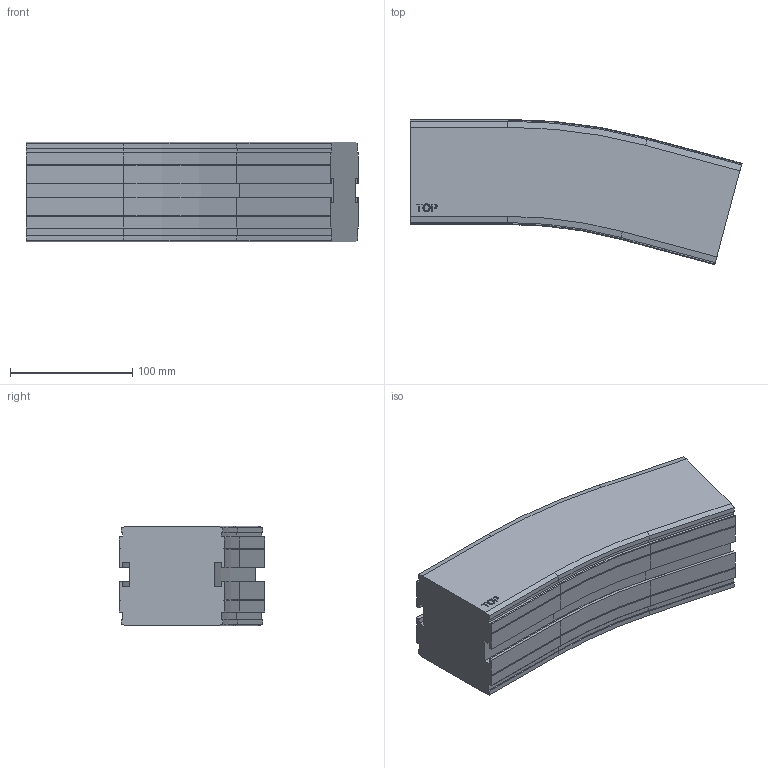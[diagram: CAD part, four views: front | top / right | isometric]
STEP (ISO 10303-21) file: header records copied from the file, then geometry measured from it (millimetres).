
FILE_DESCRIPTION((''),'2;1');
FILE_NAME('C:\Vault Klient\Projekt\Koncept konstruktion\Serie 830 Balk\830-5230.stp','2009-11-27T09:40:09',('Mathias'),(''),'Autodesk Inventor 2010','Autodesk Inventor 2010','');
FILE_SCHEMA(('AUTOMOTIVE_DESIGN { 1 0 10303 214 1 1 1 1 }'));
Length unit declared in the file: millimetre
Products named in the file (1): 830-5230
Bounding box: 271.93 x 118.87 x 81.5 mm (x, y, z)
Volume: 1759558.9 mm3; surface area: 121465.4 mm2
Topology: 1 solids, 1 shells, 169 faces, 446 edges, 284 vertices
Faces by surface type: plane 109, cylinder 30, bspline 14, cone 12, torus 4
Entity records: 5295 total; most frequent: CARTESIAN_POINT 1094, ORIENTED_EDGE 892, DIRECTION 802, EDGE_CURVE 446, VECTOR 346, LINE 346, VERTEX_POINT 284, AXIS2_PLACEMENT_3D 228
